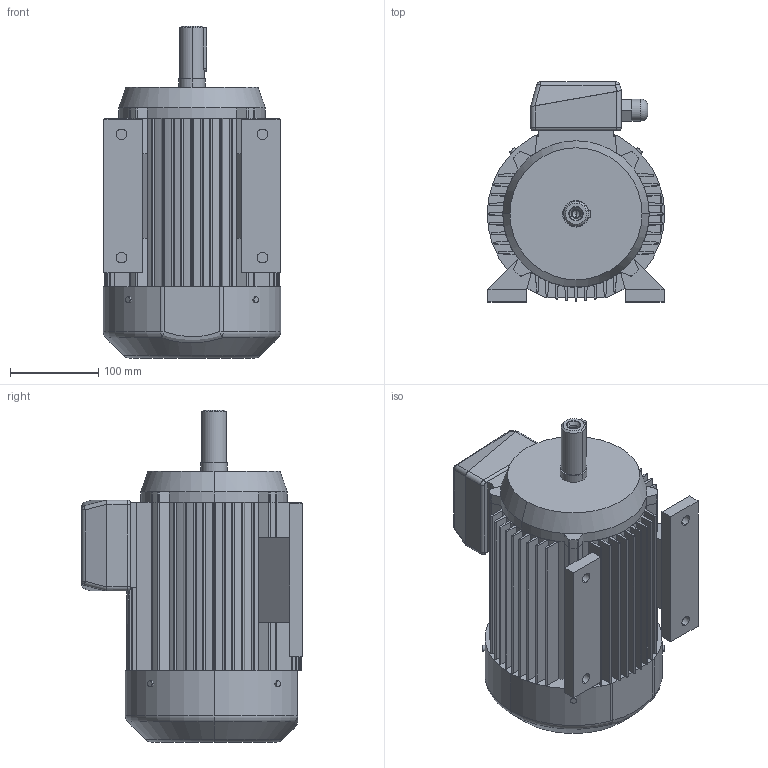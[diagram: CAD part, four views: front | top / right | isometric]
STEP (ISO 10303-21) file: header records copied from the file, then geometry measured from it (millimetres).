
FILE_DESCRIPTION (( 'STEP AP203' ), '1' );
FILE_NAME ('2SIE100L2,6.STEP', '2012-10-26T11:59:29', ( 'INDUKTA' ), ( 'CANTONI MOTOR' ), 'SwSTEP 2.0', 'SolidWorks 2003064', '' );
FILE_SCHEMA (( 'CONFIG_CONTROL_DESIGN' ));
Length unit declared in the file: millimetre
Products named in the file (1): 2SIE100L2,6
Bounding box: 201.5 x 250 x 377 mm (x, y, z)
Volume: 8802192.7 mm3; surface area: 638126 mm2
Topology: 13 solids, 13 shells, 403 faces, 1061 edges, 678 vertices
Faces by surface type: plane 190, cylinder 181, cone 14, torus 11, sphere 6, bspline 1
Entity records: 12963 total; most frequent: CARTESIAN_POINT 2709, DIRECTION 2217, ORIENTED_EDGE 2106, EDGE_CURVE 1053, AXIS2_PLACEMENT_3D 788, VERTEX_POINT 678, LINE 641, VECTOR 641
